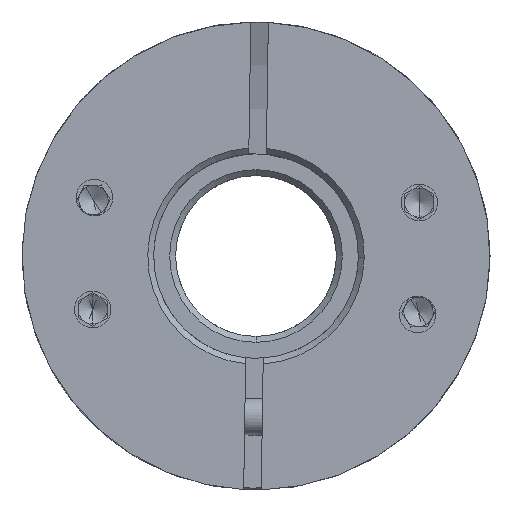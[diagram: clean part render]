
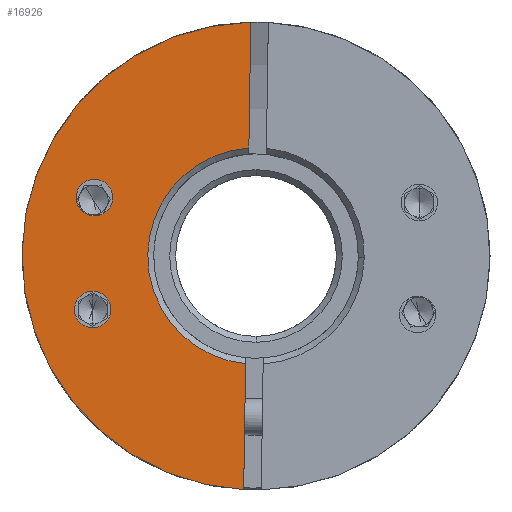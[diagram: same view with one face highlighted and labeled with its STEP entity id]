
A CAD part, front view. The second image highlights one B-rep face of the part: STEP entity #16926.
In plain terms, the highlighted planar face has unit normal (0, -1, 0).
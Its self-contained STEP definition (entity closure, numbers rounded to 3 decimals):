
#143 = LINE ( 'NONE', #18178, #14780 ) ;
#489 = EDGE_CURVE ( 'NONE', #2975, #14125, #5461, .T. ) ;
#529 = AXIS2_PLACEMENT_3D ( 'NONE', #20537, #16574, #9205 ) ;
#594 = EDGE_CURVE ( 'NONE', #22048, #2161, #7781, .T. ) ;
#797 = ORIENTED_EDGE ( 'NONE', *, *, #21609, .T. ) ;
#868 = CARTESIAN_POINT ( 'NONE',  ( -71.595, -19.411, -3.637 ) ) ;
#1109 = VERTEX_POINT ( 'NONE', #12204 ) ;
#1569 = PLANE ( 'NONE',  #10454 ) ;
#1859 = VERTEX_POINT ( 'NONE', #14886 ) ;
#2161 = VERTEX_POINT ( 'NONE', #23526 ) ;
#2888 = DIRECTION ( 'NONE',  ( 1., 0., -0.015 ) ) ;
#2975 = VERTEX_POINT ( 'NONE', #868 ) ;
#3765 = CIRCLE ( 'NONE', #11916, 16. ) ;
#4246 = CARTESIAN_POINT ( 'NONE',  ( -59.687, -19.411, 6.008 ) ) ;
#4261 = CIRCLE ( 'NONE', #4269, 1.25 ) ;
#4269 = AXIS2_PLACEMENT_3D ( 'NONE', #24061, #13013, #10800 ) ;
#4616 = CARTESIAN_POINT ( 'NONE',  ( -59.178, -19.411, 0. ) ) ;
#4706 = CARTESIAN_POINT ( 'NONE',  ( -70.345, -19.411, -3.656 ) ) ;
#4725 = ORIENTED_EDGE ( 'NONE', *, *, #15864, .T. ) ;
#4753 = CIRCLE ( 'NONE', #529, 1.25 ) ;
#5461 = CIRCLE ( 'NONE', #12507, 1.25 ) ;
#5805 = EDGE_CURVE ( 'NONE', #18145, #2161, #15221, .T. ) ;
#6094 = VERTEX_POINT ( 'NONE', #14727 ) ;
#6212 = AXIS2_PLACEMENT_3D ( 'NONE', #6978, #10682, #14286 ) ;
#6978 = CARTESIAN_POINT ( 'NONE',  ( -59.178, -19.411, 0. ) ) ;
#7224 = EDGE_LOOP ( 'NONE', ( #19755, #4725 ) ) ;
#7609 = CARTESIAN_POINT ( 'NONE',  ( -59.178, -19.411, 0. ) ) ;
#7781 = CIRCLE ( 'NONE', #6212, 7.4 ) ;
#7849 = DIRECTION ( 'NONE',  ( -0.015, 0., -1. ) ) ;
#8303 = VERTEX_POINT ( 'NONE', #13787 ) ;
#8798 = FACE_BOUND ( 'NONE', #7224, .T. ) ;
#9205 = DIRECTION ( 'NONE',  ( 1., 0., -0.015 ) ) ;
#9252 = DIRECTION ( 'NONE',  ( 1., 0., -0.015 ) ) ;
#9296 = DIRECTION ( 'NONE',  ( 0., 1., 0. ) ) ;
#9574 = EDGE_CURVE ( 'NONE', #22048, #1859, #143, .T. ) ;
#9710 = FACE_BOUND ( 'NONE', #19002, .T. ) ;
#10103 = ORIENTED_EDGE ( 'NONE', *, *, #489, .T. ) ;
#10182 = DIRECTION ( 'NONE',  ( 1., 0., -0.015 ) ) ;
#10353 = DIRECTION ( 'NONE',  ( 0., 1., 0. ) ) ;
#10454 = AXIS2_PLACEMENT_3D ( 'NONE', #14680, #23763, #9252 ) ;
#10682 = DIRECTION ( 'NONE',  ( 0., 1., 0. ) ) ;
#10800 = DIRECTION ( 'NONE',  ( 1., 0., -0.015 ) ) ;
#10846 = EDGE_LOOP ( 'NONE', ( #16015, #13453, #15012, #18497, #16116 ) ) ;
#11810 = AXIS2_PLACEMENT_3D ( 'NONE', #4616, #19703, #10182 ) ;
#11916 = AXIS2_PLACEMENT_3D ( 'NONE', #7609, #20698, #15172 ) ;
#11974 = VECTOR ( 'NONE', #7849, 1000. ) ;
#12204 = CARTESIAN_POINT ( 'NONE',  ( -68.979, -19.411, 3.975 ) ) ;
#12507 = AXIS2_PLACEMENT_3D ( 'NONE', #4706, #10353, #2888 ) ;
#12768 = EDGE_CURVE ( 'NONE', #8303, #1859, #3765, .T. ) ;
#13013 = DIRECTION ( 'NONE',  ( 0., 1., 0. ) ) ;
#13052 = CARTESIAN_POINT ( 'NONE',  ( -59.535, -19.411, 15.996 ) ) ;
#13453 = ORIENTED_EDGE ( 'NONE', *, *, #594, .T. ) ;
#13787 = CARTESIAN_POINT ( 'NONE',  ( -75.176, -19.411, 0.243 ) ) ;
#14125 = VERTEX_POINT ( 'NONE', #17847 ) ;
#14286 = DIRECTION ( 'NONE',  ( 1., 0., -0.015 ) ) ;
#14680 = CARTESIAN_POINT ( 'NONE',  ( -59.178, -19.411, 0. ) ) ;
#14727 = CARTESIAN_POINT ( 'NONE',  ( -71.479, -19.411, 4.013 ) ) ;
#14780 = VECTOR ( 'NONE', #23262, 1000. ) ;
#14805 = AXIS2_PLACEMENT_3D ( 'NONE', #21579, #9296, #17617 ) ;
#14886 = CARTESIAN_POINT ( 'NONE',  ( -60.021, -19.411, -15.978 ) ) ;
#15012 = ORIENTED_EDGE ( 'NONE', *, *, #5805, .F. ) ;
#15172 = DIRECTION ( 'NONE',  ( 1., 0., -0.015 ) ) ;
#15221 = LINE ( 'NONE', #4246, #11974 ) ;
#15864 = EDGE_CURVE ( 'NONE', #1109, #6094, #4753, .T. ) ;
#16015 = ORIENTED_EDGE ( 'NONE', *, *, #9574, .F. ) ;
#16116 = ORIENTED_EDGE ( 'NONE', *, *, #12768, .T. ) ;
#16574 = DIRECTION ( 'NONE',  ( 0., 1., 0. ) ) ;
#16926 = ADVANCED_FACE ( 'NONE', ( #19315, #8798, #9710 ), #1569, .T. ) ;
#17617 = DIRECTION ( 'NONE',  ( 1., 0., -0.015 ) ) ;
#17847 = CARTESIAN_POINT ( 'NONE',  ( -69.095, -19.411, -3.675 ) ) ;
#18145 = VERTEX_POINT ( 'NONE', #13052 ) ;
#18178 = CARTESIAN_POINT ( 'NONE',  ( -59.687, -19.411, 6.008 ) ) ;
#18497 = ORIENTED_EDGE ( 'NONE', *, *, #22711, .T. ) ;
#19002 = EDGE_LOOP ( 'NONE', ( #10103, #797 ) ) ;
#19315 = FACE_OUTER_BOUND ( 'NONE', #10846, .T. ) ;
#19703 = DIRECTION ( 'NONE',  ( 0., -1., 0. ) ) ;
#19755 = ORIENTED_EDGE ( 'NONE', *, *, #21856, .T. ) ;
#20537 = CARTESIAN_POINT ( 'NONE',  ( -70.229, -19.411, 3.994 ) ) ;
#20672 = CARTESIAN_POINT ( 'NONE',  ( -59.89, -19.411, -7.366 ) ) ;
#20698 = DIRECTION ( 'NONE',  ( 0., -1., 0. ) ) ;
#21579 = CARTESIAN_POINT ( 'NONE',  ( -70.345, -19.411, -3.656 ) ) ;
#21609 = EDGE_CURVE ( 'NONE', #14125, #2975, #21767, .T. ) ;
#21767 = CIRCLE ( 'NONE', #14805, 1.25 ) ;
#21856 = EDGE_CURVE ( 'NONE', #6094, #1109, #4261, .T. ) ;
#22048 = VERTEX_POINT ( 'NONE', #20672 ) ;
#22649 = CIRCLE ( 'NONE', #11810, 16. ) ;
#22711 = EDGE_CURVE ( 'NONE', #18145, #8303, #22649, .T. ) ;
#23262 = DIRECTION ( 'NONE',  ( -0.015, 0., -1. ) ) ;
#23526 = CARTESIAN_POINT ( 'NONE',  ( -59.666, -19.411, 7.384 ) ) ;
#23763 = DIRECTION ( 'NONE',  ( 0., -1., 0. ) ) ;
#24061 = CARTESIAN_POINT ( 'NONE',  ( -70.229, -19.411, 3.994 ) ) ;
